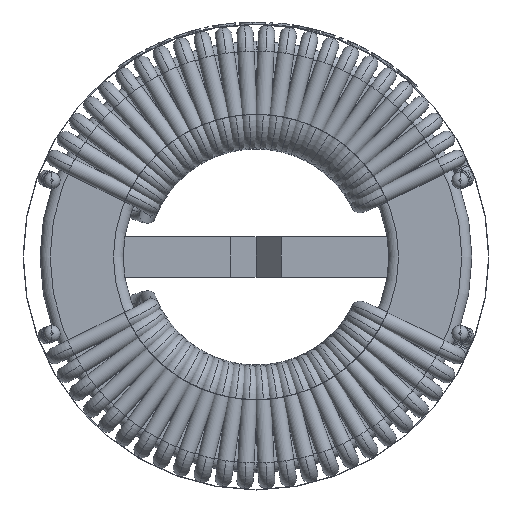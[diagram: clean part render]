
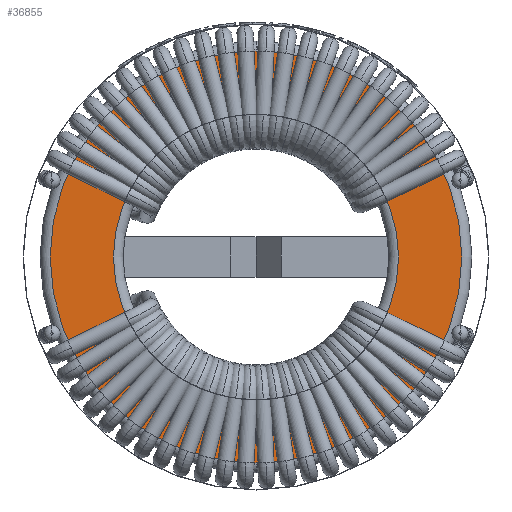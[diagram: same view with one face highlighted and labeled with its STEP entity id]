
A CAD part, front view. The second image highlights one B-rep face of the part: STEP entity #36855.
In plain terms, the highlighted planar face has unit normal (0, -1, 0).
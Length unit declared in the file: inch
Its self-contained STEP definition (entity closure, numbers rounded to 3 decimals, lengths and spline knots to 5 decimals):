
#3527 = CIRCLE ( 'NONE', #35303, 0.27953 ) ;
#6348 = ORIENTED_EDGE ( 'NONE', *, *, #36605, .T. ) ;
#6963 = CARTESIAN_POINT ( 'NONE',  ( 0., -0.19094, 0. ) ) ;
#9528 = PLANE ( 'NONE',  #30887 ) ;
#10449 = AXIS2_PLACEMENT_3D ( 'NONE', #34569, #30538, #27383 ) ;
#12292 = AXIS2_PLACEMENT_3D ( 'NONE', #6963, #13376, #41241 ) ;
#12639 = ORIENTED_EDGE ( 'NONE', *, *, #13524, .T. ) ;
#13374 = EDGE_LOOP ( 'NONE', ( #35023, #12639 ) ) ;
#13376 = DIRECTION ( 'NONE',  ( 0., -1., 0. ) ) ;
#13524 = EDGE_CURVE ( 'NONE', #38052, #40371, #15964, .T. ) ;
#13562 = CIRCLE ( 'NONE', #10449, 0.40354 ) ;
#15964 = CIRCLE ( 'NONE', #12292, 0.40354 ) ;
#16393 = EDGE_LOOP ( 'NONE', ( #48253, #6348 ) ) ;
#17270 = EDGE_CURVE ( 'NONE', #40371, #38052, #13562, .T. ) ;
#18668 = AXIS2_PLACEMENT_3D ( 'NONE', #29563, #42298, #35188 ) ;
#21530 = FACE_OUTER_BOUND ( 'NONE', #13374, .T. ) ;
#22030 = CARTESIAN_POINT ( 'NONE',  ( 0., -0.19094, 0.27953 ) ) ;
#23960 = CARTESIAN_POINT ( 'NONE',  ( 0., -0.19094, 0. ) ) ;
#25338 = DIRECTION ( 'NONE',  ( 0., 1., 0. ) ) ;
#26353 = CARTESIAN_POINT ( 'NONE',  ( 0., -0.19094, 0.40354 ) ) ;
#27383 = DIRECTION ( 'NONE',  ( 0., 0., 1. ) ) ;
#28669 = FACE_BOUND ( 'NONE', #16393, .T. ) ;
#29563 = CARTESIAN_POINT ( 'NONE',  ( 0., -0.19094, 0. ) ) ;
#30538 = DIRECTION ( 'NONE',  ( 0., -1., 0. ) ) ;
#30887 = AXIS2_PLACEMENT_3D ( 'NONE', #23960, #33562, #39099 ) ;
#31201 = VERTEX_POINT ( 'NONE', #22030 ) ;
#31688 = DIRECTION ( 'NONE',  ( 0., 0., 1. ) ) ;
#33562 = DIRECTION ( 'NONE',  ( 0., 1., 0. ) ) ;
#34569 = CARTESIAN_POINT ( 'NONE',  ( 0., -0.19094, 0. ) ) ;
#35023 = ORIENTED_EDGE ( 'NONE', *, *, #17270, .T. ) ;
#35188 = DIRECTION ( 'NONE',  ( 0., 0., 1. ) ) ;
#35303 = AXIS2_PLACEMENT_3D ( 'NONE', #39688, #25338, #31688 ) ;
#36605 = EDGE_CURVE ( 'NONE', #46995, #31201, #3527, .T. ) ;
#36855 = ADVANCED_FACE ( 'NONE', ( #28669, #21530 ), #9528, .F. ) ;
#37061 = EDGE_CURVE ( 'NONE', #31201, #46995, #40029, .T. ) ;
#38052 = VERTEX_POINT ( 'NONE', #46980 ) ;
#39099 = DIRECTION ( 'NONE',  ( 0., 0., 1. ) ) ;
#39688 = CARTESIAN_POINT ( 'NONE',  ( 0., -0.19094, 0. ) ) ;
#40029 = CIRCLE ( 'NONE', #18668, 0.27953 ) ;
#40371 = VERTEX_POINT ( 'NONE', #26353 ) ;
#41241 = DIRECTION ( 'NONE',  ( 0., 0., 1. ) ) ;
#42298 = DIRECTION ( 'NONE',  ( 0., 1., 0. ) ) ;
#46980 = CARTESIAN_POINT ( 'NONE',  ( 0., -0.19094, -0.40354 ) ) ;
#46995 = VERTEX_POINT ( 'NONE', #49121 ) ;
#48253 = ORIENTED_EDGE ( 'NONE', *, *, #37061, .T. ) ;
#49121 = CARTESIAN_POINT ( 'NONE',  ( 0., -0.19094, -0.27953 ) ) ;
